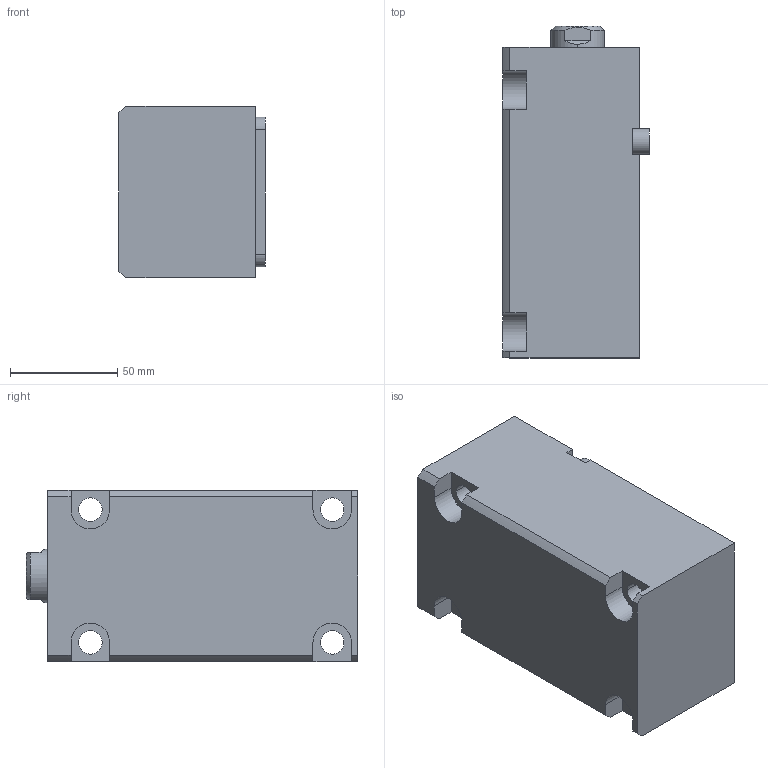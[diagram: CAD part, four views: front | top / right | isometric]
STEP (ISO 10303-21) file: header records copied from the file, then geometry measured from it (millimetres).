
FILE_DESCRIPTION (( 'STEP AP214' ), '1' );
FILE_NAME ('chtb-lam40x90n_asm.STEP', '2018-05-29T08:07:54', ( 'Windows' ), ( 'Microsoft' ), 'SwSTEP 2.0', 'SolidWorks 2015', '' );
FILE_SCHEMA (( 'AUTOMOTIVE_DESIGN' ));
Length unit declared in the file: millimetre
Products named in the file (5): CHTB-LA40PJ; chtb-lam40x90n_asm; CHTB-SD40X90NHSG; CHTB-SD40QG; CHTB-LAM40X90NBT
Assembly tree (4 placements, depth 2):
  chtb-lam40x90n_asm
    CHTB-LA40PJ
    CHTB-LAM40X90NBT
    CHTB-SD40QG
    CHTB-SD40X90NHSG
Bounding box: 68.5 x 155 x 80 mm (x, y, z)
Volume: 636300.2 mm3; surface area: 109055.8 mm2
Topology: 4 solids, 4 shells, 154 faces, 418 edges, 278 vertices
Faces by surface type: cylinder 73, plane 46, bspline 14, torus 12, cone 9
Entity records: 10092 total; most frequent: CARTESIAN_POINT 6074, ORIENTED_EDGE 824, DIRECTION 755, EDGE_CURVE 412, AXIS2_PLACEMENT_3D 300, VERTEX_POINT 278, EDGE_LOOP 180, VECTOR 155
